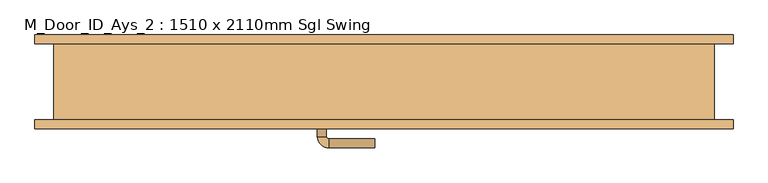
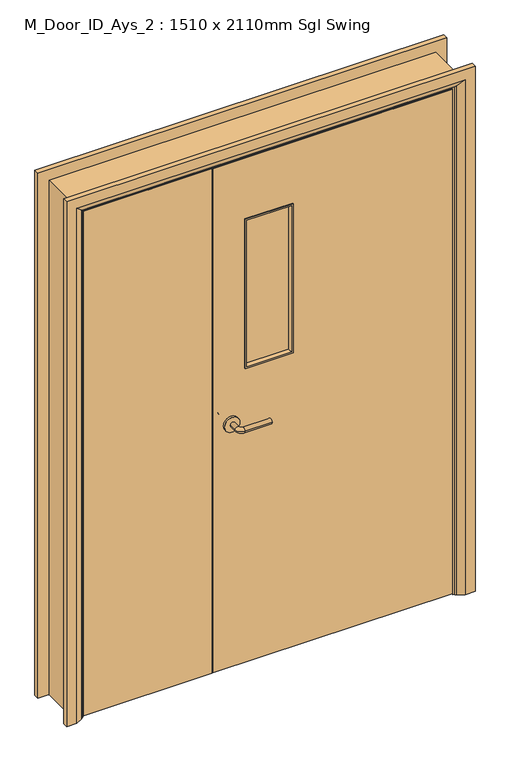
"""IFC4 building model written with IfcOpenShell, lengths in millimetres: door geometry, M_Door_ID_Ays_2 : 1510 x 2110mm Sgl Swing."""

from ifc_helpers import new_model, si_unit, point, frame, frame_2d, origin, place, context, project, spatial, polyline, circle_curve, ellipse_curve, trimmed, segment, composite_curve, outline, extrude, faceted_brep, source, transform, mapped, element, save
from ifc_brep_helpers import plane_surface, cylinder_surface, revolved_surface, advanced_brep


def m_door_id_ays_2_1510_x_2110mm_sgl_swing_6645f678(model_context):
    return source(origin(), model_context, "Body", "SolidModel", [
        advanced_brep(
        [(88.5, -46.0, 1000.0), (108.5, -46.0, 1000.0), (88.5, -16.0, 1000.0), (108.5, -16.0, 1000.0), (113.5, -11.0, 1000.0), (113.5, 9.0, 1000.0), (218.5, 9.0, 1000.0), (218.5, -11.0, 1000.0)],
        [
            (0, 1, circle_curve(frame((98.5, -46.0, 1000.0), z_axis=(0.0, -1.0, 0.0), x_axis=(1.0, 0.0, 0.0)), 10.0)),
            (1, 0, circle_curve(frame((98.5, -46.0, 1000.0), z_axis=(0.0, -1.0, 0.0), x_axis=(1.0, 0.0, 0.0)), 10.0)),
            (0, 2),
            (2, 3, circle_curve(frame((98.5, -16.0, 1000.0), z_axis=(0.0, -1.0, 0.0), x_axis=(1.0, 0.0, 0.0)), 10.0)),
            (3, 1),
            (3, 2, circle_curve(frame((98.5, -16.0, 1000.0), z_axis=(0.0, -1.0, 0.0), x_axis=(1.0, 0.0, 0.0)), 10.0)),
            (4, 3, circle_curve(frame((113.5, -16.0, 1000.0), z_axis=(0.0, 0.0, 1.0), x_axis=(-1.0, 0.0, 0.0)), 5.0)),
            (2, 5, circle_curve(frame((113.5, -16.0, 1000.0), z_axis=(0.0, 0.0, -1.0), x_axis=(-1.0, 0.0, 0.0)), 25.0)),
            (5, 4, circle_curve(frame((113.5, -1.0, 1000.0), z_axis=(-1.0, 0.0, 0.0), x_axis=(0.0, -1.0, 0.0)), 10.0)),
            (4, 5, circle_curve(frame((113.5, -1.0, 1000.0), z_axis=(-1.0, 0.0, 0.0), x_axis=(0.0, -1.0, 0.0)), 10.0)),
            (6, 7, circle_curve(frame((218.5, -1.0, 1000.0), z_axis=(1.0, 0.0, 0.0), x_axis=(0.0, -1.0, 0.0)), 10.0)),
            (7, 6, circle_curve(frame((218.5, -1.0, 1000.0), z_axis=(1.0, 0.0, 0.0), x_axis=(0.0, -1.0, 0.0)), 10.0)),
            (5, 6),
            (7, 4),
        ],
        [
            plane_surface(frame((98.5, -46.0, 1000.0), z_axis=(0.0, -1.0, 0.0), x_axis=(0.0, 0.0, 1.0))),
            cylinder_surface(frame((98.5, -46.0, 1000.0), z_axis=(0.0, -1.0, 0.0), x_axis=(1.0, 0.0, 0.0)), 10.0),
            revolved_surface(trimmed(ellipse_curve(frame((98.5, -16.0, 1000.0), z_axis=(0.0, -1.0, 0.0), x_axis=(1.0, 0.0, 0.0)), 10.0, 10.0), [point((88.5, -16.0, 1000.0))], [point((108.5, -16.0, 1000.0))], True, "CARTESIAN"), (113.5, -16.0, 1000.0), (0.0, 0.0, -1.0)),
            revolved_surface(trimmed(ellipse_curve(frame((98.5, -16.0, 1000.0), z_axis=(0.0, -1.0, 0.0), x_axis=(1.0, 0.0, 0.0)), 10.0, 10.0), [point((108.5, -16.0, 1000.0))], [point((88.5, -16.0, 1000.0))], True, "CARTESIAN"), (113.5, -16.0, 1000.0), (0.0, 0.0, -1.0)),
            plane_surface(frame((218.5, -1.0, 1000.0), z_axis=(1.0, 0.0, 0.0), x_axis=(0.0, 0.0, 1.0))),
            cylinder_surface(frame((113.5, -1.0, 1000.0), z_axis=(-1.0, 0.0, 0.0), x_axis=(0.0, -1.0, 0.0)), 10.0),
        ],
        [
            (0, [[1, 2]]),
            (1, [[-1, 3, 4, 5]]),
            (1, [[-2, -5, 6, -3]]),
            (2, [[7, -4, 8, 9]]),
            (3, [[-8, -6, -7, 10]]),
            (4, [[11, 12]]),
            (5, [[-9, 13, -12, 14]]),
            (5, [[-10, -14, -11, -13]]),
        ],
    ),
        extrude(outline(composite_curve([segment(trimmed(circle_curve(frame_2d((1000.0, 96.0)), 30.0), [point((1000.0, 66.0))], [point((1000.0, 126.0))], False, "CARTESIAN"), True, "CONTINUOUS"), segment(trimmed(circle_curve(frame_2d((1000.0, 96.0)), 30.0), [point((1000.0, 126.0))], [point((1000.0, 66.0))], False, "CARTESIAN"), True, "CONTINUOUS")], self_intersect=False)), frame((0.0, -54.0, 0.0), z_axis=(0.0, 1.0, 0.0), x_axis=(0.0, 0.0, 1.0)), (0.0, 0.0, 1.0), 8.0),
        advanced_brep(
        [(88.5, -94.0, 1000.0), (108.5, -94.0, 1000.0), (108.5, -124.0, 1000.0), (88.5, -124.0, 1000.0), (113.5, -129.0, 1000.0), (113.5, -149.0, 1000.0), (218.5, -149.0, 1000.0), (218.5, -129.0, 1000.0)],
        [
            (0, 1, circle_curve(frame((98.5, -94.0, 1000.0), z_axis=(0.0, 1.0, 0.0), x_axis=(1.0, 0.0, 0.0)), 10.0)),
            (1, 0, circle_curve(frame((98.5, -94.0, 1000.0), z_axis=(0.0, 1.0, 0.0), x_axis=(1.0, 0.0, 0.0)), 10.0)),
            (1, 2),
            (2, 3, circle_curve(frame((98.5, -124.0, 1000.0), z_axis=(0.0, 1.0, 0.0), x_axis=(1.0, 0.0, 0.0)), 10.0)),
            (3, 0),
            (3, 2, circle_curve(frame((98.5, -124.0, 1000.0), z_axis=(0.0, 1.0, 0.0), x_axis=(1.0, 0.0, 0.0)), 10.0)),
            (4, 5, circle_curve(frame((113.5, -139.0, 1000.0), z_axis=(-1.0, 0.0, 0.0), x_axis=(0.0, 1.0, 0.0)), 10.0)),
            (5, 3, circle_curve(frame((113.5, -124.0, 1000.0), z_axis=(0.0, 0.0, -1.0), x_axis=(-1.0, 0.0, 0.0)), 25.0)),
            (2, 4, circle_curve(frame((113.5, -124.0, 1000.0), z_axis=(0.0, 0.0, 1.0), x_axis=(-1.0, 0.0, 0.0)), 5.0)),
            (5, 4, circle_curve(frame((113.5, -139.0, 1000.0), z_axis=(-1.0, 0.0, 0.0), x_axis=(0.0, 1.0, 0.0)), 10.0)),
            (6, 7, circle_curve(frame((218.5, -139.0, 1000.0), z_axis=(1.0, 0.0, 0.0), x_axis=(0.0, 1.0, 0.0)), 10.0)),
            (7, 6, circle_curve(frame((218.5, -139.0, 1000.0), z_axis=(1.0, 0.0, 0.0), x_axis=(0.0, 1.0, 0.0)), 10.0)),
            (4, 7),
            (6, 5),
        ],
        [
            plane_surface(frame((98.5, -94.0, 1000.0), z_axis=(0.0, 1.0, 0.0), x_axis=(0.0, 0.0, 1.0))),
            cylinder_surface(frame((98.5, -94.0, 1000.0), z_axis=(0.0, 1.0, 0.0), x_axis=(1.0, 0.0, 0.0)), 10.0),
            revolved_surface(trimmed(ellipse_curve(frame((98.5, -124.0, 1000.0), z_axis=(0.0, -1.0, 0.0), x_axis=(1.0, 0.0, 0.0)), 10.0, 10.0), [point((88.5, -124.0, 1000.0))], [point((108.5, -124.0, 1000.0))], True, "CARTESIAN"), (113.5, -124.0, 1000.0), (0.0, 0.0, -1.0)),
            revolved_surface(trimmed(ellipse_curve(frame((98.5, -124.0, 1000.0), z_axis=(0.0, -1.0, 0.0), x_axis=(1.0, 0.0, 0.0)), 10.0, 10.0), [point((108.5, -124.0, 1000.0))], [point((88.5, -124.0, 1000.0))], True, "CARTESIAN"), (113.5, -124.0, 1000.0), (0.0, 0.0, -1.0)),
            plane_surface(frame((218.5, -139.0, 1000.0), z_axis=(1.0, 0.0, 0.0), x_axis=(0.0, 0.0, 1.0))),
            cylinder_surface(frame((113.5, -139.0, 1000.0), z_axis=(-1.0, 0.0, 0.0), x_axis=(0.0, 1.0, 0.0)), 10.0),
        ],
        [
            (0, [[1, 2]]),
            (1, [[3, 4, 5, -2]]),
            (1, [[-5, 6, -3, -1]]),
            (2, [[7, 8, -4, 9]]),
            (3, [[10, -9, -6, -8]]),
            (4, [[11, 12]]),
            (5, [[13, -11, 14, -7]]),
            (5, [[-14, -12, -13, -10]]),
        ],
    ),
        extrude(outline(composite_curve([segment(trimmed(circle_curve(frame_2d((1000.0, 96.0)), 30.0), [point((1000.0, 66.0))], [point((1000.0, 126.0))], False, "CARTESIAN"), True, "CONTINUOUS"), segment(trimmed(circle_curve(frame_2d((1000.0, 96.0)), 30.0), [point((1000.0, 126.0))], [point((1000.0, 66.0))], False, "CARTESIAN"), True, "CONTINUOUS")], self_intersect=False)), frame((0.0, -94.0, 0.0), z_axis=(0.0, 1.0, 0.0), x_axis=(0.0, 0.0, 1.0)), (0.0, 0.0, 1.0), 8.0),
        extrude(outline(polyline([(2102.0, -508.0), (0.0, -508.0), (0.0, -476.0), (2070.0, -476.0), (2070.0, 954.0), (0.0, 954.0), (0.0, 986.0), (2102.0, 986.0), (2102.0, -508.0)])), frame((0.0, -86.0, 0.0), z_axis=(0.0, 1.0, 0.0), x_axis=(0.0, 0.0, 1.0)), (0.0, 0.0, 1.0), 172.0),
        faceted_brep([(-457.0, -51.0, 0.0), (-476.0, -51.0, 0.0), (-476.0, -19.0, 0.0), (-457.0, -19.0, 0.0), (-457.0, -19.0, 2051.0), (-457.0, -51.0, 2051.0), (-476.0, -19.0, 2070.0), (-476.0, -51.0, 2070.0), (935.0, -51.0, 0.0), (935.0, -19.0, 0.0), (954.0, -19.0, 0.0), (954.0, -51.0, 0.0), (935.0, -51.0, 2051.0), (954.0, -51.0, 2070.0), (954.0, -19.0, 2070.0), (935.0, -19.0, 2051.0)], [[[0, 1, 2, 3]], [[3, 4, 5, 0]], [[2, 6, 4, 3]], [[1, 7, 6, 2]], [[0, 5, 7, 1]], [[8, 9, 10, 11]], [[12, 8, 11, 13]], [[13, 11, 10, 14]], [[14, 10, 9, 15]], [[15, 9, 8, 12]], [[4, 15, 12, 5]], [[6, 14, 15, 4]], [[7, 13, 14, 6]], [[5, 12, 13, 7]]]),
        advanced_brep(
        [(1029.0, -106.0, 0.0), (989.0, -106.0, 0.0), (963.0, -92.0, 0.0), (959.0, -86.0, 0.0), (1029.0, -86.0, 0.0), (1029.0, -86.0, 2145.0), (1029.0, -106.0, 2145.0), (959.0, -86.0, 2075.0), (-481.0, -86.0, 2075.0), (-481.0, -86.0, 0.0), (-551.0, -86.0, 0.0), (-551.0, -86.0, 2145.0), (963.0, -92.0, 2079.0), (989.0, -106.0, 2105.0), (-551.0, -106.0, 2145.0), (-551.0, -106.0, 0.0), (-511.0, -106.0, 0.0), (-511.0, -106.0, 2105.0), (-485.0, -92.0, 0.0), (-485.0, -92.0, 2079.0)],
        [
            (0, 1),
            (1, 2),
            (2, 3, circle_curve(frame((967.0, -85.0, 0.0), z_axis=(0.0, 0.0, -1.0), x_axis=(1.0, 0.0, 0.0)), 8.0622577)),
            (3, 4),
            (4, 0),
            (4, 5),
            (5, 6),
            (6, 0),
            (3, 7),
            (7, 8),
            (8, 9),
            (9, 10),
            (10, 11),
            (11, 5),
            (2, 12),
            (12, 7, ellipse_curve(frame((967.0, -85.0, 2083.0), z_axis=(0.7071067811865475, 0.0, -0.7071067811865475), x_axis=(-0.7071067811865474, 0.0, -0.7071067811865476)), 11.4017543, 8.0622577)),
            (1, 13),
            (13, 12),
            (6, 14),
            (14, 15),
            (15, 16),
            (16, 17),
            (17, 13),
            (10, 15),
            (14, 11),
            (9, 18, circle_curve(frame((-489.0, -85.0, 0.0), z_axis=(0.0, 0.0, -1.0), x_axis=(-1.0, 0.0, 0.0)), 8.0622577)),
            (18, 16),
            (19, 18),
            (8, 19, ellipse_curve(frame((-489.0, -85.0, 2083.0), z_axis=(-0.7071067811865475, 0.0, -0.7071067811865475), x_axis=(-0.7071067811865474, 0.0, 0.7071067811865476)), 11.4017543, 8.0622577)),
            (19, 17),
            (12, 19),
        ],
        [
            plane_surface(frame((959.0, -86.0, 0.0), z_axis=(0.0, 0.0, -1.0), x_axis=(0.0, 1.0, 0.0))),
            plane_surface(frame((1029.0, -106.0, 0.0), z_axis=(1.0, 0.0, 0.0), x_axis=(0.0, 0.0, 1.0))),
            plane_surface(frame((1029.0, -86.0, 0.0), z_axis=(0.0, 1.0, 0.0), x_axis=(0.0, 0.0, 1.0))),
            cylinder_surface(frame((967.0, -85.0, 0.0), z_axis=(0.0, 0.0, -1.0), x_axis=(1.0, 0.0, 0.0)), 8.0622577),
            plane_surface(frame((963.0, -92.0, 0.0), z_axis=(-0.4740998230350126, -0.8804710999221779, 0.0), x_axis=(0.0, 0.0, 1.0))),
            plane_surface(frame((989.0, -106.0, 0.0), z_axis=(0.0, -1.0, 0.0), x_axis=(0.0, 0.0, 1.0))),
            plane_surface(frame((-551.0, -106.0, 2145.0), z_axis=(-1.0, 0.0, 0.0), x_axis=(0.0, 0.0, -1.0))),
            plane_surface(frame((-481.0, -86.0, 0.0), z_axis=(0.0, 0.0, -1.0), x_axis=(0.0, 1.0, 0.0))),
            cylinder_surface(frame((-489.0, -85.0, 2075.0), z_axis=(0.0, 0.0, 1.0), x_axis=(-1.0, 0.0, 0.0)), 8.0622577),
            plane_surface(frame((-485.0, -92.0, 2079.0), z_axis=(0.4740998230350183, -0.8804710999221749, 0.0), x_axis=(0.0, 0.0, -1.0))),
            plane_surface(frame((1029.0, -106.0, 2145.0), z_axis=(0.0, 0.0, 1.0), x_axis=(-1.0, 0.0, 0.0))),
            cylinder_surface(frame((959.0, -85.0, 2083.0), z_axis=(1.0, 0.0, 0.0), x_axis=(0.0, 0.0, 1.0)), 8.0622577),
            plane_surface(frame((963.0, -92.0, 2079.0), z_axis=(0.0, -0.8804710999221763, -0.4740998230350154), x_axis=(-1.0, 0.0, 0.0))),
        ],
        [
            (0, [[1, 2, 3, 4, 5]]),
            (1, [[6, 7, 8, -5]]),
            (2, [[9, 10, 11, 12, 13, 14, -6, -4]]),
            (3, [[15, 16, -9, -3]]),
            (4, [[17, 18, -15, -2]]),
            (5, [[-8, 19, 20, 21, 22, 23, -17, -1]]),
            (6, [[-13, 24, -20, 25]]),
            (7, [[-24, -12, 26, 27, -21]]),
            (8, [[28, -26, -11, 29]]),
            (9, [[-22, -27, -28, 30]]),
            (10, [[-14, -25, -19, -7]]),
            (11, [[31, -29, -10, -16]]),
            (12, [[-23, -30, -31, -18]]),
        ],
    ),
        advanced_brep(
        [(-551.0, 106.0, 0.0), (-511.0, 106.0, 0.0), (-485.0, 92.0, 0.0), (-481.0, 86.0, 0.0), (-551.0, 86.0, 0.0), (-551.0, 86.0, 2145.0), (-551.0, 106.0, 2145.0), (-481.0, 86.0, 2075.0), (959.0, 86.0, 2075.0), (959.0, 86.0, 0.0), (1029.0, 86.0, 0.0), (1029.0, 86.0, 2145.0), (-485.0, 92.0, 2079.0), (-511.0, 106.0, 2105.0), (1029.0, 106.0, 2145.0), (1029.0, 106.0, 0.0), (989.0, 106.0, 0.0), (989.0, 106.0, 2105.0), (963.0, 92.0, 0.0), (963.0, 92.0, 2079.0)],
        [
            (0, 1),
            (1, 2),
            (2, 3, circle_curve(frame((-489.0, 85.0, 0.0), z_axis=(0.0, 0.0, -1.0), x_axis=(-1.0, 0.0, 0.0)), 8.0622577)),
            (3, 4),
            (4, 0),
            (4, 5),
            (5, 6),
            (6, 0),
            (3, 7),
            (7, 8),
            (8, 9),
            (9, 10),
            (10, 11),
            (11, 5),
            (2, 12),
            (12, 7, ellipse_curve(frame((-489.0, 85.0, 2083.0), z_axis=(-0.7071067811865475, 0.0, -0.7071067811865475), x_axis=(0.7071067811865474, 0.0, -0.7071067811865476)), 11.4017543, 8.0622577)),
            (1, 13),
            (13, 12),
            (6, 14),
            (14, 15),
            (15, 16),
            (16, 17),
            (17, 13),
            (10, 15),
            (14, 11),
            (9, 18, circle_curve(frame((967.0, 85.0, 0.0), z_axis=(0.0, 0.0, -1.0), x_axis=(1.0, 0.0, 0.0)), 8.0622577)),
            (18, 16),
            (19, 18),
            (8, 19, ellipse_curve(frame((967.0, 85.0, 2083.0), z_axis=(0.7071067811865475, 0.0, -0.7071067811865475), x_axis=(0.7071067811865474, 0.0, 0.7071067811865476)), 11.4017543, 8.0622577)),
            (19, 17),
            (12, 19),
        ],
        [
            plane_surface(frame((-481.0, 86.0, 0.0), z_axis=(0.0, 0.0, -1.0), x_axis=(0.0, 1.0, 0.0))),
            plane_surface(frame((-551.0, 106.0, 0.0), z_axis=(-1.0, 0.0, 0.0), x_axis=(0.0, 0.0, 1.0))),
            plane_surface(frame((-551.0, 86.0, 0.0), z_axis=(0.0, -1.0, 0.0), x_axis=(0.0, 0.0, 1.0))),
            cylinder_surface(frame((-489.0, 85.0, 0.0), z_axis=(0.0, 0.0, -1.0), x_axis=(-1.0, 0.0, 0.0)), 8.0622577),
            plane_surface(frame((-485.0, 92.0, 0.0), z_axis=(0.4740998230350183, 0.8804710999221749, 0.0), x_axis=(0.0, 0.0, 1.0))),
            plane_surface(frame((-511.0, 106.0, 0.0), z_axis=(0.0, 1.0, 0.0), x_axis=(0.0, 0.0, 1.0))),
            plane_surface(frame((1029.0, 106.0, 2145.0), z_axis=(1.0, 0.0, 0.0), x_axis=(0.0, 0.0, -1.0))),
            plane_surface(frame((959.0, 86.0, 0.0), z_axis=(0.0, 0.0, -1.0), x_axis=(0.0, 1.0, 0.0))),
            cylinder_surface(frame((967.0, 85.0, 2075.0), z_axis=(0.0, 0.0, 1.0), x_axis=(1.0, 0.0, 0.0)), 8.0622577),
            plane_surface(frame((963.0, 92.0, 2079.0), z_axis=(-0.4740998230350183, 0.8804710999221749, 0.0), x_axis=(0.0, 0.0, -1.0))),
            plane_surface(frame((-551.0, 106.0, 2145.0), z_axis=(0.0, 0.0, 1.0), x_axis=(1.0, 0.0, 0.0))),
            cylinder_surface(frame((-481.0, 85.0, 2083.0), z_axis=(-1.0, 0.0, 0.0), x_axis=(0.0, 0.0, 1.0)), 8.0622577),
            plane_surface(frame((-485.0, 92.0, 2079.0), z_axis=(0.0, 0.8804710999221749, -0.4740998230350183), x_axis=(1.0, 0.0, 0.0))),
        ],
        [
            (0, [[1, 2, 3, 4, 5]]),
            (1, [[6, 7, 8, -5]]),
            (2, [[9, 10, 11, 12, 13, 14, -6, -4]]),
            (3, [[15, 16, -9, -3]]),
            (4, [[17, 18, -15, -2]]),
            (5, [[-8, 19, 20, 21, 22, 23, -17, -1]]),
            (6, [[-13, 24, -20, 25]]),
            (7, [[-24, -12, 26, 27, -21]]),
            (8, [[28, -26, -11, 29]]),
            (9, [[-22, -27, -28, 30]]),
            (10, [[-14, -25, -19, -7]]),
            (11, [[31, -29, -10, -16]]),
            (12, [[-23, -30, -31, -18]]),
        ],
    ),
        extrude(outline(polyline([(5.753223, 951.0), (2067.0, 951.0), (2067.0, 25.0), (5.753223, 25.0), (5.753223, 951.0)]), holes=[polyline([(1817.0, 150.0), (1817.0, 335.0), (1207.0, 335.0), (1207.0, 150.0), (1817.0, 150.0)])]), frame((0.0, -86.0, 0.0), z_axis=(0.0, 1.0, 0.0), x_axis=(0.0, 0.0, 1.0)), (0.0, 0.0, 1.0), 32.0),
        extrude(outline(polyline([(22.0, -54.0), (22.0, -86.0), (-473.0, -86.0), (-473.0, -54.0), (22.0, -54.0)])), frame((0.0, 0.0, 5.753223), z_axis=(0.0, 0.0, 1.0), x_axis=(1.0, 0.0, 0.0)), (0.0, 0.0, 1.0), 2061.246777),
        extrude(outline(polyline([(335.0, -64.0), (335.0, -76.0), (150.0, -76.0), (150.0, -64.0), (335.0, -64.0)])), frame((0.0, 0.0, 1207.0), z_axis=(0.0, 0.0, 1.0), x_axis=(1.0, 0.0, 0.0)), (0.0, 0.0, 1.0), 610.0),
        faceted_brep([(150.0, -89.0, 1207.0), (150.0, -89.0, 1817.0), (150.0, -76.0, 1817.0), (150.0, -76.0, 1207.0), (162.0, -76.0, 1219.0), (162.0, -76.0, 1805.0), (156.0, -89.0, 1811.0), (156.0, -89.0, 1213.0), (335.0, -89.0, 1817.0), (335.0, -76.0, 1817.0), (323.0, -76.0, 1805.0), (329.0, -89.0, 1811.0), (335.0, -89.0, 1207.0), (335.0, -76.0, 1207.0), (323.0, -76.0, 1219.0), (329.0, -89.0, 1213.0)], [[[0, 1, 2, 3]], [[4, 5, 6, 7]], [[1, 8, 9, 2]], [[5, 10, 11, 6]], [[8, 12, 13, 9]], [[10, 14, 15, 11]], [[3, 2, 9, 13], [5, 4, 14, 10]], [[12, 0, 3, 13]], [[1, 0, 12, 8], [7, 6, 11, 15]], [[14, 4, 7, 15]]]),
        faceted_brep([(335.0, -51.0, 1207.0), (335.0, -51.0, 1817.0), (335.0, -64.0, 1817.0), (335.0, -64.0, 1207.0), (323.0, -64.0, 1219.0), (323.0, -64.0, 1805.0), (329.0, -51.0, 1811.0), (329.0, -51.0, 1213.0), (150.0, -51.0, 1817.0), (150.0, -64.0, 1817.0), (162.0, -64.0, 1805.0), (156.0, -51.0, 1811.0), (150.0, -51.0, 1207.0), (150.0, -64.0, 1207.0), (162.0, -64.0, 1219.0), (156.0, -51.0, 1213.0)], [[[0, 1, 2, 3]], [[4, 5, 6, 7]], [[1, 8, 9, 2]], [[5, 10, 11, 6]], [[8, 12, 13, 9]], [[10, 14, 15, 11]], [[3, 2, 9, 13], [5, 4, 14, 10]], [[12, 0, 3, 13]], [[1, 0, 12, 8], [7, 6, 11, 15]], [[14, 4, 7, 15]]]),
    ])


if __name__ == "__main__":
    model = new_model("IFC4")
    model_context = context("Model", 3, world=origin())
    ifc_project = project(units=[si_unit("LENGTHUNIT", "METRE", prefix="MILLI")], contexts=[model_context])
    site = spatial("IfcSite", under=ifc_project)
    building = spatial("IfcBuilding", under=site)
    placement = place(None, origin())
    m_door_id_ays_2_1510_x_2110mm_sgl_swing_shape = m_door_id_ays_2_1510_x_2110mm_sgl_swing_6645f678(model_context)
    element("IfcDoor", 1, ObjectType="M_Door_ID_Ays_2 : 1510 x 2110mm Sgl Swing", at=placement, inside=building, context=model_context, shape_type="MappedRepresentation", body=[
        mapped(m_door_id_ays_2_1510_x_2110mm_sgl_swing_shape, transform((0.0, 0.0, 0.0), x_axis=(1.0, 0.0, 0.0), y_axis=(0.0, 1.0, 0.0), z_axis=(0.0, 0.0, 1.0))),
    ])
    save(model, "model.ifc")
